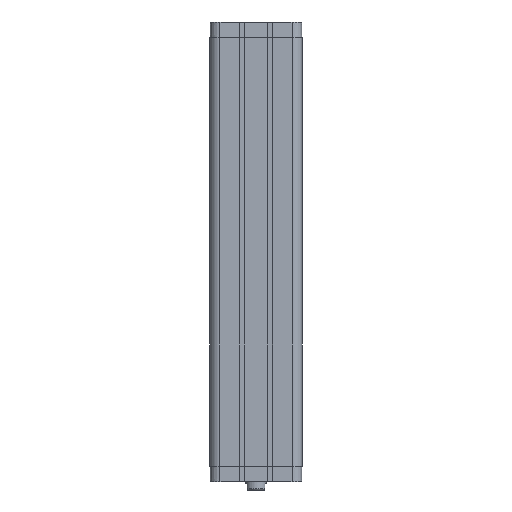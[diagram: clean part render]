
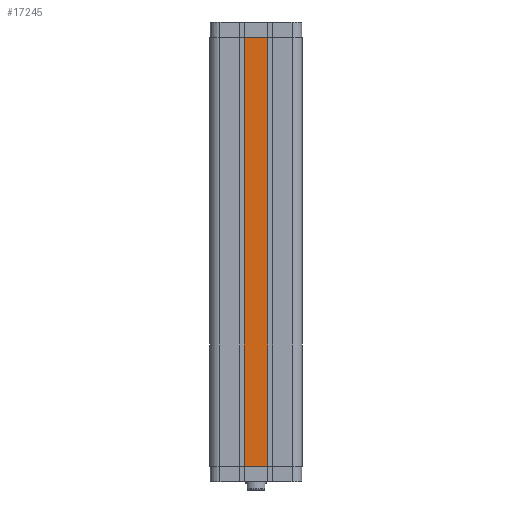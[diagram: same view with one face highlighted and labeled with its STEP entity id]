
A CAD part, left-side view. The second image highlights one B-rep face of the part: STEP entity #17245.
In plain terms, the highlighted planar face has unit normal (-1, 0, 0).
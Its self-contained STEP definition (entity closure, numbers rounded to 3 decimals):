
#893=PLANE('',#18194);
#1655=LINE('',#25042,#2757);
#1656=LINE('',#25045,#2758);
#1657=LINE('',#25047,#2759);
#1658=LINE('',#25049,#2760);
#2757=VECTOR('',#20486,1000.);
#2758=VECTOR('',#20487,1000.);
#2759=VECTOR('',#20488,1000.);
#2760=VECTOR('',#20489,1000.);
#5015=ORIENTED_EDGE('',*,*,#7965,.F.);
#5016=ORIENTED_EDGE('',*,*,#7966,.T.);
#5017=ORIENTED_EDGE('',*,*,#7967,.F.);
#5018=ORIENTED_EDGE('',*,*,#7968,.T.);
#7965=EDGE_CURVE('',#9543,#9544,#1655,.T.);
#7966=EDGE_CURVE('',#9543,#9545,#1656,.T.);
#7967=EDGE_CURVE('',#9546,#9545,#1657,.T.);
#7968=EDGE_CURVE('',#9546,#9544,#1658,.T.);
#9543=VERTEX_POINT('',#25043);
#9544=VERTEX_POINT('',#25044);
#9545=VERTEX_POINT('',#25046);
#9546=VERTEX_POINT('',#25048);
#11058=EDGE_LOOP('',(#5015,#5016,#5017,#5018));
#11970=FACE_BOUND('',#11058,.T.);
#17245=ADVANCED_FACE('',(#11970),#893,.T.);
#18194=AXIS2_PLACEMENT_3D('',#25041,#20484,#20485);
#20484=DIRECTION('',(-1.,0.,0.));
#20485=DIRECTION('',(0.,0.,1.));
#20486=DIRECTION('',(0.,0.,1.));
#20487=DIRECTION('',(0.,-1.,0.));
#20488=DIRECTION('',(0.,0.,-1.));
#20489=DIRECTION('',(0.,1.,0.));
#25041=CARTESIAN_POINT('',(-56.75,-56.75,0.));
#25042=CARTESIAN_POINT('',(-56.75,14.5,-16.5));
#25043=CARTESIAN_POINT('',(-56.75,14.5,-511.5));
#25044=CARTESIAN_POINT('',(-56.75,14.5,16.5));
#25045=CARTESIAN_POINT('',(-56.75,14.5,-511.5));
#25046=CARTESIAN_POINT('',(-56.75,-14.5,-511.5));
#25047=CARTESIAN_POINT('',(-56.75,-14.5,16.5));
#25048=CARTESIAN_POINT('',(-56.75,-14.5,16.5));
#25049=CARTESIAN_POINT('',(-56.75,-14.5,16.5));
